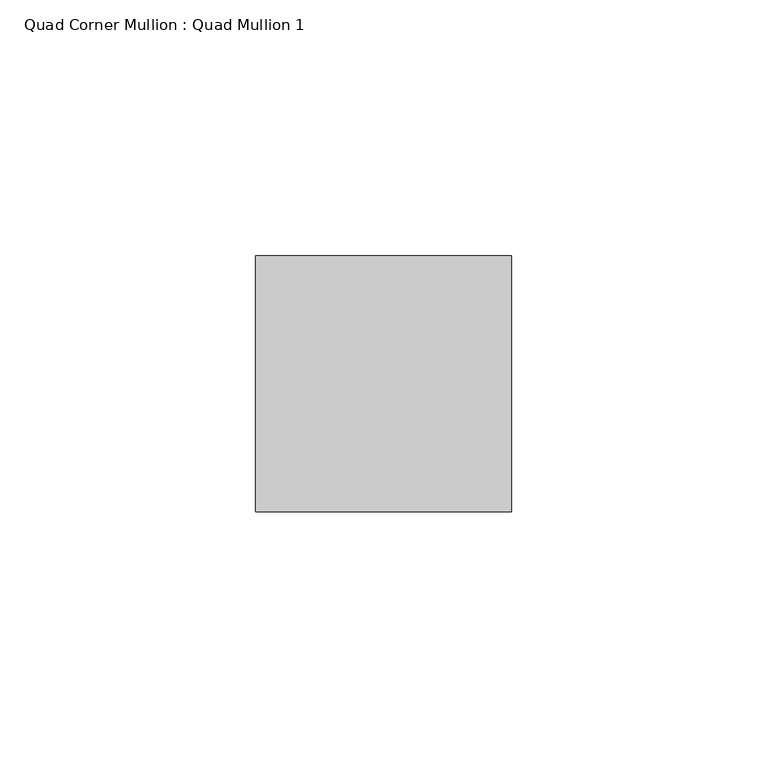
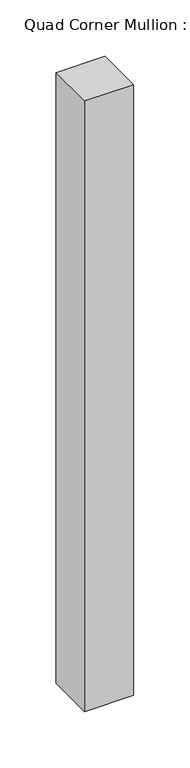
"""IFC4 building model written with IfcOpenShell, lengths in millimetres: member geometry, Quad Corner Mullion : Quad Mullion 1."""

from ifc_helpers import new_model, si_unit, frame, origin, place, context, project, spatial, polyline, outline, extrude, source, transform, mapped, element, save


def quad_corner_mullion_quad_mullion_1_ea398e95(model_context):
    return source(origin(), model_context, "Body", "SweptSolid", [
        extrude(outline(polyline([(25.0, -25.0), (-25.0, -25.0), (-25.0, 25.0), (25.0, 25.0), (25.0, -25.0)])), frame((0.0, 0.0, -660.0), z_axis=(0.0, 0.0, 1.0), x_axis=(1.0, 0.0, 0.0)), (0.0, 0.0, 1.0), 660.0),
    ])


if __name__ == "__main__":
    model = new_model("IFC4")
    model_context = context("Model", 3, world=origin())
    ifc_project = project(units=[si_unit("LENGTHUNIT", "METRE", prefix="MILLI")], contexts=[model_context])
    site = spatial("IfcSite", under=ifc_project)
    building = spatial("IfcBuilding", under=site)
    placement = place(None, origin())
    quad_corner_mullion_quad_mullion_1_shape = quad_corner_mullion_quad_mullion_1_ea398e95(model_context)
    element("IfcMember", 1, ObjectType="Quad Corner Mullion : Quad Mullion 1", at=placement, inside=building, context=model_context, shape_type="MappedRepresentation", body=[
        mapped(quad_corner_mullion_quad_mullion_1_shape, transform((0.0, 0.0, 0.0), x_axis=(1.0, 0.0, 0.0), y_axis=(0.0, 1.0, 0.0), z_axis=(0.0, 0.0, 1.0))),
    ])
    save(model, "model.ifc")
